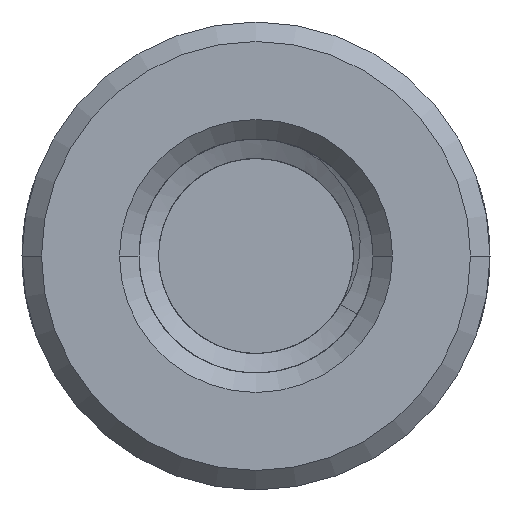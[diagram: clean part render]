
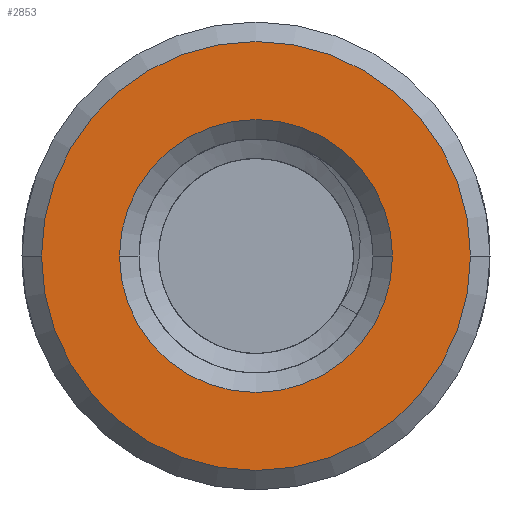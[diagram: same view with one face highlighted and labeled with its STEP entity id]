
A CAD part, front view. The second image highlights one B-rep face of the part: STEP entity #2853.
In plain terms, the highlighted planar face has unit normal (0, -1, 0).
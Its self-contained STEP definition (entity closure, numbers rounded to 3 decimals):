
#1=CARTESIAN_POINT('',(0.,0.,0.));
#2=DIRECTION('',(0.,1.,0.));
#3=DIRECTION('',(-1.,0.,0.));
#4=AXIS2_PLACEMENT_3D('',#1,#2,#3);
#6=CARTESIAN_POINT('',(0.,0.,0.));
#7=DIRECTION('',(0.,1.,0.));
#8=DIRECTION('',(1.,0.,0.));
#9=AXIS2_PLACEMENT_3D('',#6,#7,#8);
#11=CARTESIAN_POINT('',(0.,0.,0.));
#12=DIRECTION('',(0.,-1.,0.));
#13=DIRECTION('',(-1.,0.,0.));
#14=AXIS2_PLACEMENT_3D('',#11,#12,#13);
#16=CARTESIAN_POINT('',(0.,0.,0.));
#17=DIRECTION('',(0.,-1.,0.));
#18=DIRECTION('',(1.,0.,0.));
#19=AXIS2_PLACEMENT_3D('',#16,#17,#18);
#2709=CARTESIAN_POINT('',(-3.5,0.,0.));
#2710=CARTESIAN_POINT('',(3.5,0.,0.));
#2711=VERTEX_POINT('',#2709);
#2712=VERTEX_POINT('',#2710);
#2717=CARTESIAN_POINT('',(-5.5,0.,0.));
#2718=CARTESIAN_POINT('',(5.5,0.,0.));
#2719=VERTEX_POINT('',#2717);
#2720=VERTEX_POINT('',#2718);
#2836=CARTESIAN_POINT('',(0.,0.,0.));
#2837=DIRECTION('',(0.,1.,0.));
#2838=DIRECTION('',(1.,0.,0.));
#2839=AXIS2_PLACEMENT_3D('',#2836,#2837,#2838);
#2840=PLANE('',#2839);
#2842=ORIENTED_EDGE('',*,*,#2841,.F.);
#2844=ORIENTED_EDGE('',*,*,#2843,.F.);
#2845=EDGE_LOOP('',(#2842,#2844));
#2846=FACE_OUTER_BOUND('',#2845,.F.);
#2848=ORIENTED_EDGE('',*,*,#2847,.F.);
#2850=ORIENTED_EDGE('',*,*,#2849,.F.);
#2851=EDGE_LOOP('',(#2848,#2850));
#2852=FACE_BOUND('',#2851,.F.);
#2853=ADVANCED_FACE('',(#2846,#2852),#2840,.F.);
#5=CIRCLE('',#4,3.5);
#10=CIRCLE('',#9,3.5);
#15=CIRCLE('',#14,5.5);
#20=CIRCLE('',#19,5.5);
#2841=EDGE_CURVE('',#2719,#2720,#15,.T.);
#2843=EDGE_CURVE('',#2720,#2719,#20,.T.);
#2847=EDGE_CURVE('',#2711,#2712,#5,.T.);
#2849=EDGE_CURVE('',#2712,#2711,#10,.T.);
